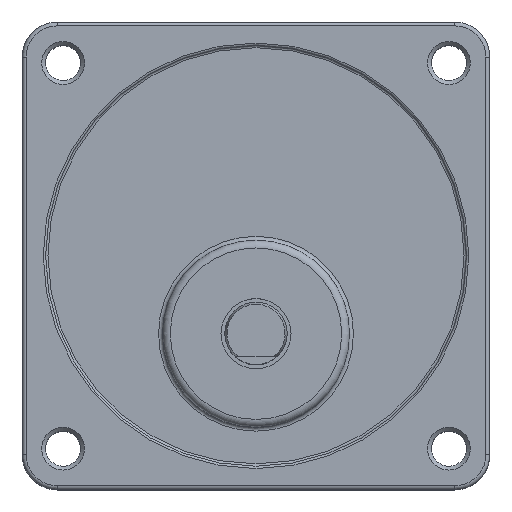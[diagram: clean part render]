
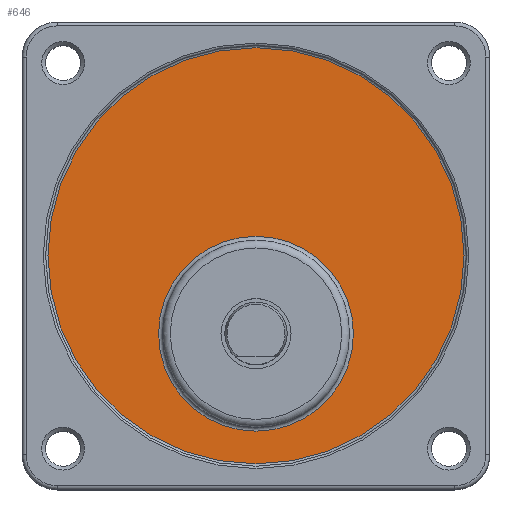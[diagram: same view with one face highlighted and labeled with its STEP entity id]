
A CAD part, top view. The second image highlights one B-rep face of the part: STEP entity #646.
In plain terms, the highlighted planar face has unit normal (0, 0, 1).
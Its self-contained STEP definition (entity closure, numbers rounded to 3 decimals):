
#595=CARTESIAN_POINT('',(42.5,20.0,29.2));
#596=VERTEX_POINT('',#595);
#597=CARTESIAN_POINT('',(30.,20.0,29.2));
#598=DIRECTION('',(0.0,0.0,1.0));
#599=DIRECTION('',(-1.0,0.0,0.0));
#600=AXIS2_PLACEMENT_3D('',#597,#598,#599);
#601=CIRCLE('',#600,12.5);
#602=EDGE_CURVE('',#596,#596,#601,.T.);
#627=CARTESIAN_POINT('',(30.,30.0,29.2));
#628=DIRECTION('',(0.0,0.0,-1.0));
#629=DIRECTION('',(-1.0,0.0,0.0));
#630=AXIS2_PLACEMENT_3D('',#627,#628,#629);
#631=PLANE('',#630);
#632=CARTESIAN_POINT('',(56.699,30.,29.2));
#633=VERTEX_POINT('',#632);
#634=CARTESIAN_POINT('',(30.,30.0,29.2));
#635=DIRECTION('',(0.0,0.0,-1.0));
#636=DIRECTION('',(-1.0,0.0,0.0));
#637=AXIS2_PLACEMENT_3D('',#634,#635,#636);
#638=CIRCLE('',#637,26.699);
#639=EDGE_CURVE('',#633,#633,#638,.T.);
#640=ORIENTED_EDGE('',*,*,#639,.F.);
#641=EDGE_LOOP('',(#640));
#642=FACE_OUTER_BOUND('',#641,.T.);
#643=ORIENTED_EDGE('',*,*,#602,.F.);
#644=EDGE_LOOP('',(#643));
#645=FACE_BOUND('',#644,.T.);
#646=ADVANCED_FACE('',(#642,#645),#631,.F.);
